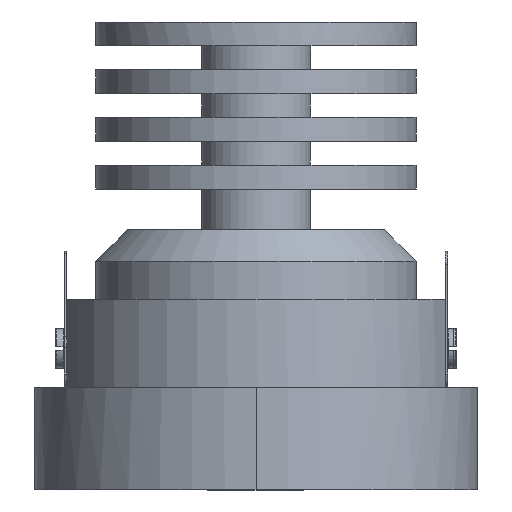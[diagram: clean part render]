
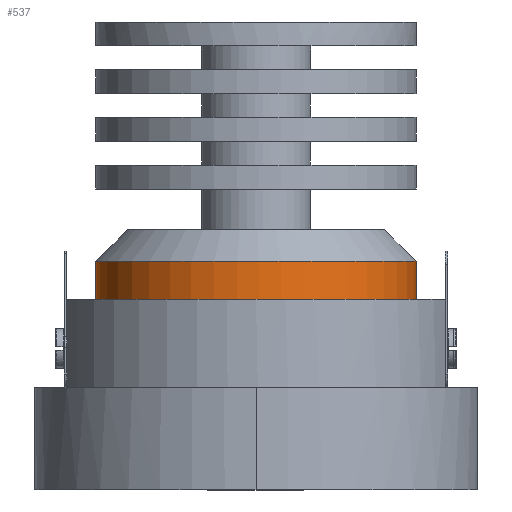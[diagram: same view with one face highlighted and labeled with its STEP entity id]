
A CAD part, front view. The second image highlights one B-rep face of the part: STEP entity #537.
In plain terms, the highlighted free-form (B-spline) face has degree [2, 1] with [5, 2] control points.
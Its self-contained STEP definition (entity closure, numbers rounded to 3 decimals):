
#537=ADVANCED_FACE('',(#1144),#20035,.T.);
#1144=FACE_OUTER_BOUND('',#1777,.T.);
#1777=EDGE_LOOP('',(#4249,#4250,#4251,#4252));
#4249=ORIENTED_EDGE('',*,*,#17544,.F.);
#4250=ORIENTED_EDGE('',*,*,#17342,.F.);
#4251=ORIENTED_EDGE('',*,*,#17545,.T.);
#4252=ORIENTED_EDGE('',*,*,#17340,.F.);
#6981=PCURVE('',#19983,#10001);
#6983=PCURVE('',#19983,#10003);
#7267=PCURVE('',#20034,#10287);
#7269=PCURVE('',#20035,#10289);
#7270=PCURVE('',#20035,#10290);
#7271=PCURVE('',#20035,#10291);
#7272=PCURVE('',#20035,#10292);
#7273=PCURVE('',#20036,#10293);
#10001=DEFINITIONAL_REPRESENTATION('',(#13739),#58196);
#10003=DEFINITIONAL_REPRESENTATION('',(#13742),#58196);
#10287=DEFINITIONAL_REPRESENTATION('',(#14072),#58196);
#10289=DEFINITIONAL_REPRESENTATION('',(#14074),#58196);
#10290=DEFINITIONAL_REPRESENTATION('',(#14075),#58196);
#10291=DEFINITIONAL_REPRESENTATION('',(#14076),#58196);
#10292=DEFINITIONAL_REPRESENTATION('',(#14077),#58196);
#10293=DEFINITIONAL_REPRESENTATION('',(#14078),#58196);
#13738=B_SPLINE_CURVE_WITH_KNOTS('',1,(#48706,#48707),.UNSPECIFIED.,.F.,
 .F.,(2,2),(46.25,61.654),.UNSPECIFIED.);
#13739=B_SPLINE_CURVE_WITH_KNOTS('',1,(#48708,#48709),.UNSPECIFIED.,.F.,
 .F.,(2,2),(46.25,61.654),.UNSPECIFIED.);
#13741=B_SPLINE_CURVE_WITH_KNOTS('',1,(#48717,#48718),.UNSPECIFIED.,.F.,
 .F.,(2,2),(-61.654,-46.25),.UNSPECIFIED.);
#13742=B_SPLINE_CURVE_WITH_KNOTS('',1,(#48719,#48720),.UNSPECIFIED.,.F.,
 .F.,(2,2),(-61.654,-46.25),.UNSPECIFIED.);
#14072=B_SPLINE_CURVE_WITH_KNOTS('',1,(#51117,#51118),.UNSPECIFIED.,.F.,
 .F.,(2,2),(-231.862,-115.931),.UNSPECIFIED.);
#14074=B_SPLINE_CURVE_WITH_KNOTS('',1,(#51121,#51122),.UNSPECIFIED.,.F.,
 .F.,(2,2),(-231.862,-115.931),.UNSPECIFIED.);
#14075=B_SPLINE_CURVE_WITH_KNOTS('',1,(#51123,#51124),.UNSPECIFIED.,.F.,
 .F.,(2,2),(-61.654,-46.25),.UNSPECIFIED.);
#14076=B_SPLINE_CURVE_WITH_KNOTS('',1,(#51130,#51131),.UNSPECIFIED.,.F.,
 .F.,(2,2),(-231.862,-115.931),.UNSPECIFIED.);
#14077=B_SPLINE_CURVE_WITH_KNOTS('',1,(#51132,#51133),.UNSPECIFIED.,.F.,
 .F.,(2,2),(46.25,61.654),.UNSPECIFIED.);
#14078=B_SPLINE_CURVE_WITH_KNOTS('',1,(#51134,#51135),.UNSPECIFIED.,.F.,
 .F.,(2,2),(-231.862,-115.931),.UNSPECIFIED.);
#15809=SURFACE_CURVE('',#13738,(#6981,#7272),.PCURVE_S1.);
#15811=SURFACE_CURVE('',#13741,(#6983,#7270),.PCURVE_S1.);
#16013=SURFACE_CURVE('',#18310,(#7267,#7269),.PCURVE_S1.);
#16014=SURFACE_CURVE('',#18311,(#7271,#7273),.PCURVE_S1.);
#17340=EDGE_CURVE('',#19318,#19319,#15809,.T.);
#17342=EDGE_CURVE('',#19235,#19236,#15811,.T.);
#17544=EDGE_CURVE('',#19236,#19318,#16013,.T.);
#17545=EDGE_CURVE('',#19235,#19319,#16014,.T.);
#18310=(
BOUNDED_CURVE()
B_SPLINE_CURVE(2,(#51112,#51113,#51114,#51115,#51116),.UNSPECIFIED.,.F.,
 .F.)
B_SPLINE_CURVE_WITH_KNOTS((3,2,3),(-231.862,-173.896,
-115.931),.UNSPECIFIED.)
CURVE()
GEOMETRIC_REPRESENTATION_ITEM()
RATIONAL_B_SPLINE_CURVE((1.,0.707,1.,0.707,1.))
REPRESENTATION_ITEM('')
);
#18311=(
BOUNDED_CURVE()
B_SPLINE_CURVE(2,(#51125,#51126,#51127,#51128,#51129),.UNSPECIFIED.,.F.,
 .F.)
B_SPLINE_CURVE_WITH_KNOTS((3,2,3),(-231.862,-173.896,
-115.931),.UNSPECIFIED.)
CURVE()
GEOMETRIC_REPRESENTATION_ITEM()
RATIONAL_B_SPLINE_CURVE((1.,0.707,1.,0.707,1.))
REPRESENTATION_ITEM('')
);
#19235=VERTEX_POINT('',#48161);
#19236=VERTEX_POINT('',#48162);
#19318=VERTEX_POINT('',#48244);
#19319=VERTEX_POINT('',#48245);
#19983=(
BOUNDED_SURFACE()
B_SPLINE_SURFACE(2,1,((#47146,#47147),(#47148,#47149),(#47150,#47151),(#47152,
#47153),(#47154,#47155)),.UNSPECIFIED.,.F.,.F.,.F.)
B_SPLINE_SURFACE_WITH_KNOTS((3,2,3),(2,2),(0.,57.965,115.931),
(46.25,61.654),.UNSPECIFIED.)
GEOMETRIC_REPRESENTATION_ITEM()
RATIONAL_B_SPLINE_SURFACE(((1.,1.),(0.707,0.707),
(1.,1.),(0.707,0.707),(1.,1.)))
REPRESENTATION_ITEM('')
SURFACE()
);
#20034=(
BOUNDED_SURFACE()
B_SPLINE_SURFACE(2,1,((#47672,#47673),(#47674,#47675),(#47676,#47677),(#47678,
#47679),(#47680,#47681)),.UNSPECIFIED.,.F.,.F.,.F.)
B_SPLINE_SURFACE_WITH_KNOTS((3,2,3),(2,2),(115.931,173.896,
231.862),(43.748,46.25),.UNSPECIFIED.)
GEOMETRIC_REPRESENTATION_ITEM()
RATIONAL_B_SPLINE_SURFACE(((1.,1.),(0.707,0.707),
(1.,1.),(0.707,0.707),(1.,1.)))
REPRESENTATION_ITEM('')
SURFACE()
);
#20035=(
BOUNDED_SURFACE()
B_SPLINE_SURFACE(2,1,((#47682,#47683),(#47684,#47685),(#47686,#47687),(#47688,
#47689),(#47690,#47691)),.UNSPECIFIED.,.F.,.F.,.F.)
B_SPLINE_SURFACE_WITH_KNOTS((3,2,3),(2,2),(115.931,173.896,
231.862),(46.25,61.654),.UNSPECIFIED.)
GEOMETRIC_REPRESENTATION_ITEM()
RATIONAL_B_SPLINE_SURFACE(((1.,1.),(0.707,0.707),
(1.,1.),(0.707,0.707),(1.,1.)))
REPRESENTATION_ITEM('')
SURFACE()
);
#20036=(
BOUNDED_SURFACE()
B_SPLINE_SURFACE(2,1,((#47692,#47693),(#47694,#47695),(#47696,#47697),(#47698,
#47699),(#47700,#47701)),.UNSPECIFIED.,.F.,.F.,.F.)
B_SPLINE_SURFACE_WITH_KNOTS((3,2,3),(2,2),(115.931,173.896,
231.862),(61.654,68.154),.UNSPECIFIED.)
GEOMETRIC_REPRESENTATION_ITEM()
RATIONAL_B_SPLINE_SURFACE(((1.,1.),(0.707,0.707),
(1.,1.),(0.707,0.707),(1.,1.)))
REPRESENTATION_ITEM('')
SURFACE()
);
#47146=CARTESIAN_POINT('',(23.5,0.,18.159));
#47147=CARTESIAN_POINT('',(23.5,0.,33.562));
#47148=CARTESIAN_POINT('',(23.5,23.5,18.159));
#47149=CARTESIAN_POINT('',(23.5,23.5,33.562));
#47150=CARTESIAN_POINT('',(0.,23.5,18.159));
#47151=CARTESIAN_POINT('',(0.,23.5,33.562));
#47152=CARTESIAN_POINT('',(-23.5,23.5,18.159));
#47153=CARTESIAN_POINT('',(-23.5,23.5,33.562));
#47154=CARTESIAN_POINT('',(-23.5,0.,18.159));
#47155=CARTESIAN_POINT('',(-23.5,0.,33.562));
#47672=CARTESIAN_POINT('',(-20.998,0.,18.159));
#47673=CARTESIAN_POINT('',(-23.5,0.,18.159));
#47674=CARTESIAN_POINT('',(-20.998,-20.998,18.159));
#47675=CARTESIAN_POINT('',(-23.5,-23.5,18.159));
#47676=CARTESIAN_POINT('',(0.,-20.998,18.159));
#47677=CARTESIAN_POINT('',(0.,-23.5,18.159));
#47678=CARTESIAN_POINT('',(20.998,-20.998,18.159));
#47679=CARTESIAN_POINT('',(23.5,-23.5,18.159));
#47680=CARTESIAN_POINT('',(20.998,0.,18.159));
#47681=CARTESIAN_POINT('',(23.5,0.,18.159));
#47682=CARTESIAN_POINT('',(-23.5,0.,18.159));
#47683=CARTESIAN_POINT('',(-23.5,0.,33.562));
#47684=CARTESIAN_POINT('',(-23.5,-23.5,18.159));
#47685=CARTESIAN_POINT('',(-23.5,-23.5,33.562));
#47686=CARTESIAN_POINT('',(0.,-23.5,18.159));
#47687=CARTESIAN_POINT('',(0.,-23.5,33.562));
#47688=CARTESIAN_POINT('',(23.5,-23.5,18.159));
#47689=CARTESIAN_POINT('',(23.5,-23.5,33.562));
#47690=CARTESIAN_POINT('',(23.5,0.,18.159));
#47691=CARTESIAN_POINT('',(23.5,0.,33.562));
#47692=CARTESIAN_POINT('',(-23.5,0.,33.562));
#47693=CARTESIAN_POINT('',(-18.904,0.,38.159));
#47694=CARTESIAN_POINT('',(-23.5,-23.5,33.562));
#47695=CARTESIAN_POINT('',(-18.904,-18.904,38.159));
#47696=CARTESIAN_POINT('',(0.,-23.5,33.562));
#47697=CARTESIAN_POINT('',(0.,-18.904,38.159));
#47698=CARTESIAN_POINT('',(23.5,-23.5,33.562));
#47699=CARTESIAN_POINT('',(18.904,-18.904,38.159));
#47700=CARTESIAN_POINT('',(23.5,0.,33.562));
#47701=CARTESIAN_POINT('',(18.904,0.,38.159));
#48161=CARTESIAN_POINT('',(23.5,0.,33.562));
#48162=CARTESIAN_POINT('',(23.5,0.,18.159));
#48244=CARTESIAN_POINT('',(-23.5,0.,18.159));
#48245=CARTESIAN_POINT('',(-23.5,0.,33.562));
#48706=CARTESIAN_POINT('',(-23.5,0.,18.159));
#48707=CARTESIAN_POINT('',(-23.5,0.,33.562));
#48708=CARTESIAN_POINT('',(115.931,46.25));
#48709=CARTESIAN_POINT('',(115.931,61.654));
#48717=CARTESIAN_POINT('',(23.5,0.,33.562));
#48718=CARTESIAN_POINT('',(23.5,0.,18.159));
#48719=CARTESIAN_POINT('',(0.,61.654));
#48720=CARTESIAN_POINT('',(0.,46.25));
#51112=CARTESIAN_POINT('',(23.5,0.,18.159));
#51113=CARTESIAN_POINT('',(23.5,-23.5,18.159));
#51114=CARTESIAN_POINT('',(0.,-23.5,18.159));
#51115=CARTESIAN_POINT('',(-23.5,-23.5,18.159));
#51116=CARTESIAN_POINT('',(-23.5,0.,18.159));
#51117=CARTESIAN_POINT('',(231.862,46.25));
#51118=CARTESIAN_POINT('',(115.931,46.25));
#51121=CARTESIAN_POINT('',(231.862,46.25));
#51122=CARTESIAN_POINT('',(115.931,46.25));
#51123=CARTESIAN_POINT('',(231.862,61.654));
#51124=CARTESIAN_POINT('',(231.862,46.25));
#51125=CARTESIAN_POINT('',(23.5,0.,33.562));
#51126=CARTESIAN_POINT('',(23.5,-23.5,33.562));
#51127=CARTESIAN_POINT('',(0.,-23.5,33.562));
#51128=CARTESIAN_POINT('',(-23.5,-23.5,33.562));
#51129=CARTESIAN_POINT('',(-23.5,0.,33.562));
#51130=CARTESIAN_POINT('',(231.862,61.654));
#51131=CARTESIAN_POINT('',(115.931,61.654));
#51132=CARTESIAN_POINT('',(115.931,46.25));
#51133=CARTESIAN_POINT('',(115.931,61.654));
#51134=CARTESIAN_POINT('',(231.862,61.654));
#51135=CARTESIAN_POINT('',(115.931,61.654));
#58196=(
GEOMETRIC_REPRESENTATION_CONTEXT(2)
PARAMETRIC_REPRESENTATION_CONTEXT()
REPRESENTATION_CONTEXT('pspace','')
);
